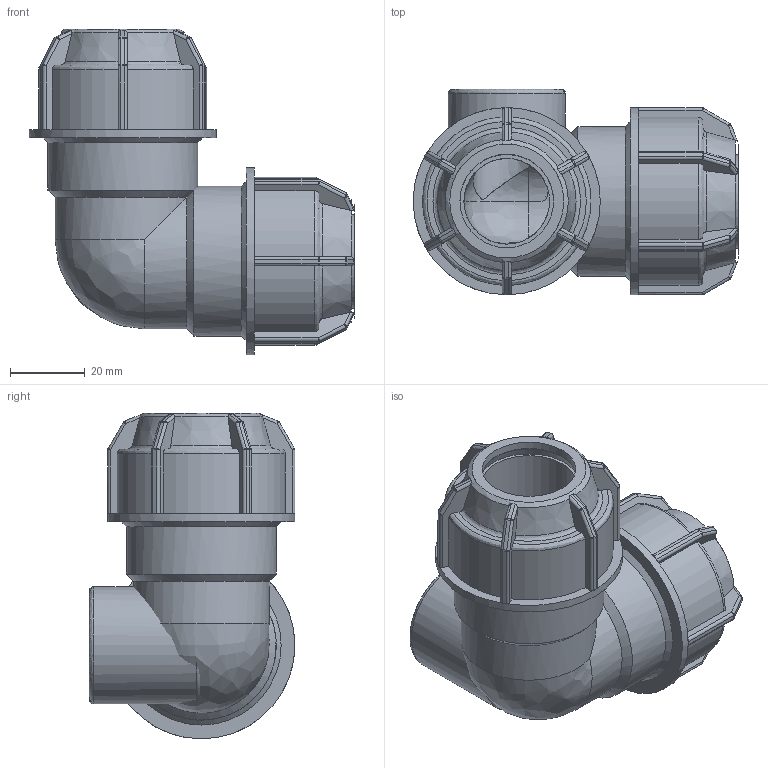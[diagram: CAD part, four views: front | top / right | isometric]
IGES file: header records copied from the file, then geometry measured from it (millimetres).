
Global section: file name: 146500025007.ipt; native system: Autodesk Inventor 2015; preprocessor: unknown; author: KIM; date: 20180409.131224; units: millimetre
Bounding box: 87 x 55 x 87 mm (x, y, z)
Volume: 105280.4 mm3; surface area: 35123.3 mm2
Topology: 2 solids, 2 shells, 420 faces, 1025 edges, 600 vertices
Faces by surface type: plane 196, cylinder 115, sphere 48, revolution 43, cone 16, bspline 2
Full cylindrical faces by diameter (mm): 31.352 x1, 40 x2, 50 x2
